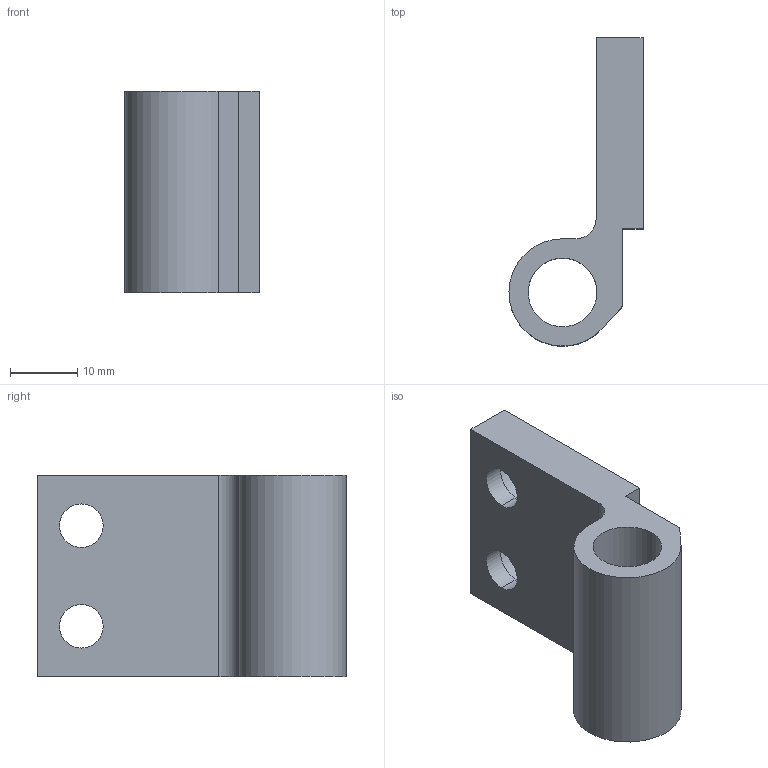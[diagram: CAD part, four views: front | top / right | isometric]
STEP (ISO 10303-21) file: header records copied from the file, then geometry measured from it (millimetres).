
FILE_DESCRIPTION (( 'STEP AP203' ), '1' );
FILE_NAME ('013.100.037.STEP', '2021-01-15T11:00:53', ( '' ), ( '' ), 'SwSTEP 2.0', 'SolidWorks 2018', '' );
FILE_SCHEMA (( 'CONFIG_CONTROL_DESIGN' ));
Length unit declared in the file: millimetre
Products named in the file (1): 013.100.037
Bounding box: 20 x 46 x 30 mm (x, y, z)
Volume: 9650.1 mm3; surface area: 5525 mm2
Topology: 1 solids, 1 shells, 23 faces, 57 edges, 38 vertices
Faces by surface type: cylinder 12, plane 11
Entity records: 784 total; most frequent: DIRECTION 129, CARTESIAN_POINT 119, ORIENTED_EDGE 114, EDGE_CURVE 57, AXIS2_PLACEMENT_3D 48, VERTEX_POINT 38, LINE 33, VECTOR 33
